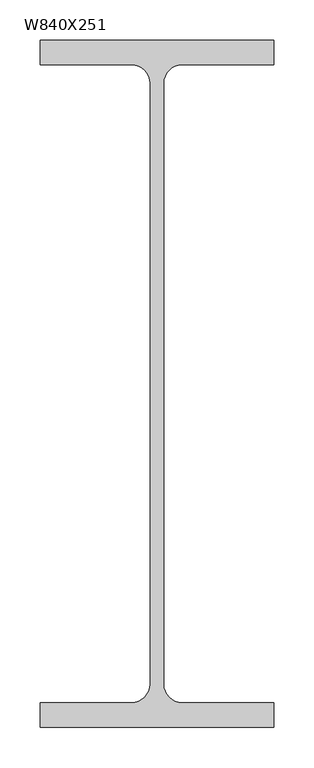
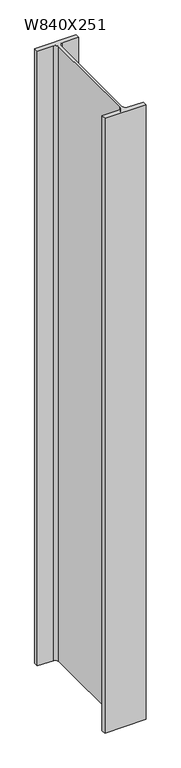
"""IFC4 building model written with IfcOpenShell, lengths in millimetres: column geometry, M_W-Wide Flange-Column : W840X251."""

from ifc_helpers import new_model, si_unit, point, frame, frame_2d, origin, place, context, project, spatial, polyline, circle_curve, trimmed, segment, composite_curve, outline, extrude, source, transform, mapped, element, save


def w840x251_8ab659da(model_context):
    return source(origin(), model_context, "Body", "SweptSolid", [
        extrude(outline(composite_curve([segment(polyline([(146.0, 429.5), (146.0, 398.5), (31.5, 398.5)]), True, "CONTINUOUS"), segment(trimmed(circle_curve(frame_2d((31.5, 375.5)), 23.0), [point((31.5, 398.5))], [point((8.5, 375.5))], True, "CARTESIAN"), True, "CONTINUOUS"), segment(polyline([(8.5, 375.5), (8.5, -375.5)]), True, "CONTINUOUS"), segment(trimmed(circle_curve(frame_2d((31.5, -375.5)), 23.0), [point((8.5, -375.5))], [point((31.5, -398.5))], True, "CARTESIAN"), True, "CONTINUOUS"), segment(polyline([(31.5, -398.5), (146.0, -398.5), (146.0, -429.5), (-146.0, -429.5), (-146.0, -398.5), (-31.5, -398.5)]), True, "CONTINUOUS"), segment(trimmed(circle_curve(frame_2d((-31.5, -375.5)), 23.0), [point((-31.5, -398.5))], [point((-8.5, -375.5))], True, "CARTESIAN"), True, "CONTINUOUS"), segment(polyline([(-8.5, -375.5), (-8.5, 375.5)]), True, "CONTINUOUS"), segment(trimmed(circle_curve(frame_2d((-31.5, 375.5)), 23.0), [point((-8.5, 375.5))], [point((-31.5, 398.5))], True, "CARTESIAN"), True, "CONTINUOUS"), segment(polyline([(-31.5, 398.5), (-146.0, 398.5), (-146.0, 429.5), (146.0, 429.5)]), True, "CONTINUOUS")], self_intersect=False)), frame((0.0, 0.0, -1677.0), z_axis=(0.0, 0.0, 1.0), x_axis=(1.0, 0.0, 0.0)), (0.0, 0.0, 1.0), 4598.0),
    ])


if __name__ == "__main__":
    model = new_model("IFC4")
    model_context = context("Model", 3, world=origin())
    ifc_project = project(units=[si_unit("LENGTHUNIT", "METRE", prefix="MILLI")], contexts=[model_context])
    site = spatial("IfcSite", under=ifc_project)
    building = spatial("IfcBuilding", under=site)
    placement = place(None, origin())
    w840x251_shape = w840x251_8ab659da(model_context)
    element("IfcColumn", 1, ObjectType="M_W-Wide Flange-Column : W840X251", at=placement, inside=building, context=model_context, shape_type="MappedRepresentation", body=[
        mapped(w840x251_shape, transform((0.0, 0.0, 0.0), x_axis=(1.0, 0.0, 0.0), y_axis=(0.0, 1.0, 0.0), z_axis=(0.0, 0.0, 1.0))),
    ])
    save(model, "model.ifc")
